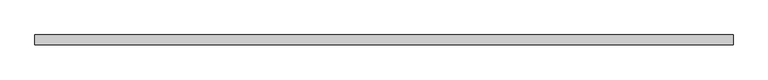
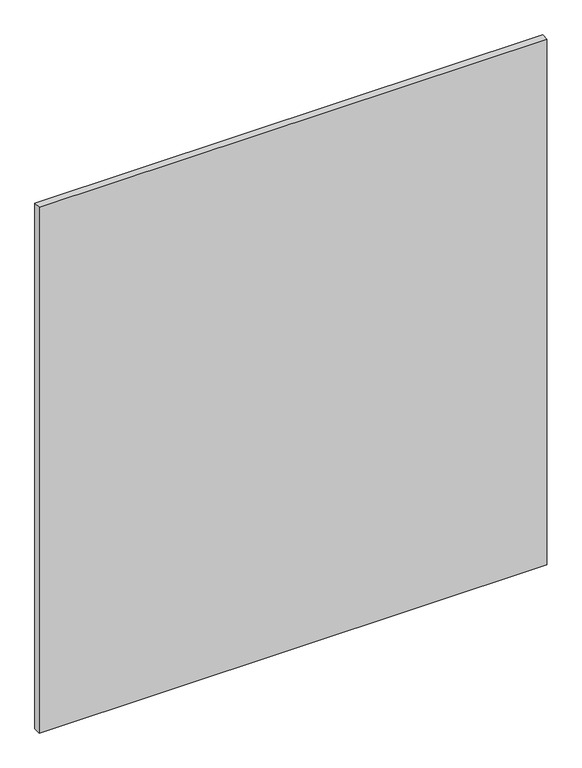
"""IFC4 building model written with IfcOpenShell, lengths in millimetres: plate geometry, Vitré."""

from ifc_helpers import new_model, si_unit, origin, origin_with_axes, place, context, project, spatial, polyline, outline, extrude, source, transform, mapped, element, save


def plate_9d4fa2e2(model_context):
    return source(origin(), model_context, "Body", "SweptSolid", [
        extrude(outline(polyline([(-1391.3125, -20.0), (-1391.3125, 20.0), (1391.3125, 20.0), (1391.3125, -20.0), (-1391.3125, -20.0)])), origin_with_axes(), (0.0, 0.0, 1.0), 3047.625),
    ])


if __name__ == "__main__":
    model = new_model("IFC4")
    model_context = context("Model", 3, world=origin())
    ifc_project = project(units=[si_unit("LENGTHUNIT", "METRE", prefix="MILLI")], contexts=[model_context])
    site = spatial("IfcSite", under=ifc_project)
    building = spatial("IfcBuilding", under=site)
    placement = place(None, origin())
    plate_shape = plate_9d4fa2e2(model_context)
    element("IfcPlate", 1, ObjectType="Vitré", at=placement, inside=building, context=model_context, shape_type="MappedRepresentation", body=[
        mapped(plate_shape, transform((0.0, 0.0, 0.0), x_axis=(1.0, 0.0, 0.0), y_axis=(0.0, 1.0, 0.0), z_axis=(0.0, 0.0, 1.0))),
    ])
    save(model, "model.ifc")
